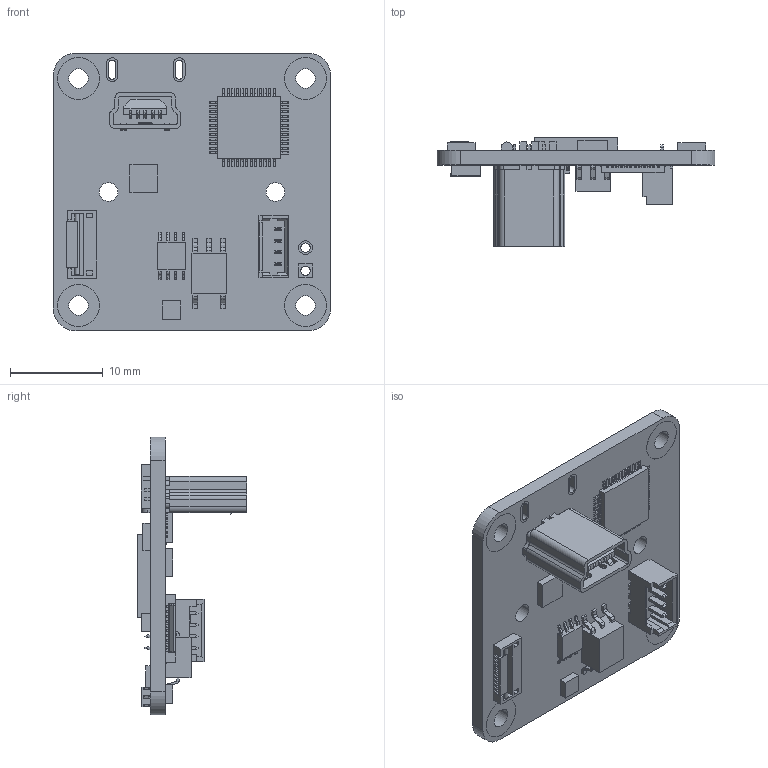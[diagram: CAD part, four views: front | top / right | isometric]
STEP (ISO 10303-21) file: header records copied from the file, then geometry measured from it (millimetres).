
FILE_DESCRIPTION((''),'2;1');
FILE_NAME('DXM_72BUC03-ML','2016-10-05T',('kevin.wileman'),(''),'CREO PARAMETRIC BY PTC INC, 2015480','CREO PARAMETRIC BY PTC INC, 2015480','');
FILE_SCHEMA(('AUTOMOTIVE_DESIGN { 1 0 10303 214 1 1 1 1 }'));
Length unit declared in the file: millimetre
Products named in the file (1): DXM_72BUC03-ML
Bounding box: 30 x 11.8 x 30 mm (x, y, z)
Volume: 1870.2 mm3; surface area: 2945.1 mm2
Topology: 2 solids, 3 shells, 1226 faces, 3466 edges, 2300 vertices
Faces by surface type: plane 872, cylinder 354
Entity records: 43793 total; most frequent: CARTESIAN_POINT 7080, ORIENTED_EDGE 6932, DIRECTION 6624, EDGE_CURVE 3466, VECTOR 2716, LINE 2716, VERTEX_POINT 2300, AXIS2_PLACEMENT_3D 1954
